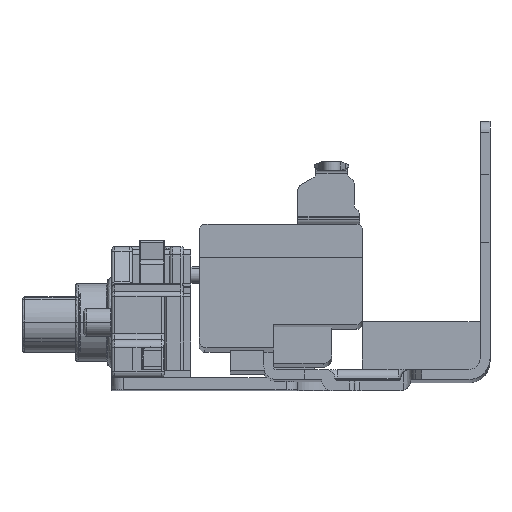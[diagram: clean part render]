
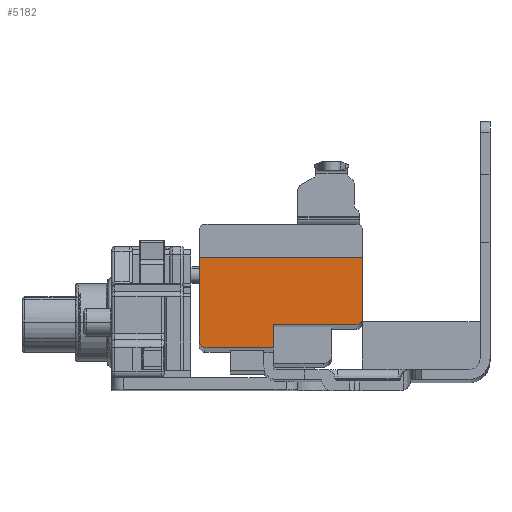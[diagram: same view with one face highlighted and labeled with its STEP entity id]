
A CAD part, top view. The second image highlights one B-rep face of the part: STEP entity #5182.
In plain terms, the highlighted planar face has unit normal (0, 0, 1).
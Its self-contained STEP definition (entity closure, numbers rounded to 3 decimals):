
#144 = CARTESIAN_POINT ( 'NONE',  ( -71.88, 0., 444.3 ) ) ;
#1026 = DIRECTION ( 'NONE',  ( 0., 0., 1. ) ) ;
#1149 = CARTESIAN_POINT ( 'NONE',  ( -42.85, -13., 444.3 ) ) ;
#1223 = EDGE_CURVE ( 'NONE', #2421, #8440, #9088, .T. ) ;
#1732 = CARTESIAN_POINT ( 'NONE',  ( -71.88, -17.1, 444.3 ) ) ;
#2132 = EDGE_CURVE ( 'NONE', #8440, #8012, #4211, .T. ) ;
#2288 = EDGE_CURVE ( 'NONE', #15555, #8012, #12849, .T. ) ;
#2421 = VERTEX_POINT ( 'NONE', #11056 ) ;
#2478 = CARTESIAN_POINT ( 'NONE',  ( -58.68, 0., 444.3 ) ) ;
#2602 = EDGE_CURVE ( 'NONE', #8663, #8378, #4627, .T. ) ;
#3469 = LINE ( 'NONE', #2478, #6801 ) ;
#3482 = CARTESIAN_POINT ( 'NONE',  ( -58.68, -14., 444.3 ) ) ;
#3562 = LINE ( 'NONE', #10614, #10910 ) ;
#3883 = VERTEX_POINT ( 'NONE', #15014 ) ;
#3945 = ORIENTED_EDGE ( 'NONE', *, *, #2288, .F. ) ;
#4211 = LINE ( 'NONE', #144, #11722 ) ;
#4592 = FACE_OUTER_BOUND ( 'NONE', #9671, .T. ) ;
#4627 = CIRCLE ( 'NONE', #10120, 1. ) ;
#5091 = ORIENTED_EDGE ( 'NONE', *, *, #12241, .T. ) ;
#5182 = ADVANCED_FACE ( 'NONE', ( #4592 ), #6691, .T. ) ;
#5824 = ORIENTED_EDGE ( 'NONE', *, *, #11498, .F. ) ;
#6155 = LINE ( 'NONE', #14438, #9481 ) ;
#6691 = PLANE ( 'NONE',  #17134 ) ;
#6763 = DIRECTION ( 'NONE',  ( 0., -1., 0. ) ) ;
#6797 = CARTESIAN_POINT ( 'NONE',  ( -43.85, -13., 444.3 ) ) ;
#6801 = VECTOR ( 'NONE', #6763, 1000. ) ;
#7264 = DIRECTION ( 'NONE',  ( -1., 0., 0. ) ) ;
#7834 = DIRECTION ( 'NONE',  ( 0., 0., -1. ) ) ;
#8012 = VERTEX_POINT ( 'NONE', #1732 ) ;
#8233 = DIRECTION ( 'NONE',  ( -1., 0., 0. ) ) ;
#8378 = VERTEX_POINT ( 'NONE', #17054 ) ;
#8440 = VERTEX_POINT ( 'NONE', #10584 ) ;
#8663 = VERTEX_POINT ( 'NONE', #1149 ) ;
#9088 = LINE ( 'NONE', #17128, #15719 ) ;
#9481 = VECTOR ( 'NONE', #15843, 1000. ) ;
#9530 = CARTESIAN_POINT ( 'NONE',  ( -40.3, 0., 444.3 ) ) ;
#9671 = EDGE_LOOP ( 'NONE', ( #15383, #16623, #3945, #5091, #5824, #10828, #12610, #17783 ) ) ;
#10120 = AXIS2_PLACEMENT_3D ( 'NONE', #6797, #16684, #8233 ) ;
#10584 = CARTESIAN_POINT ( 'NONE',  ( -71.88, -2., 444.3 ) ) ;
#10614 = CARTESIAN_POINT ( 'NONE',  ( -40.3, -14., 444.3 ) ) ;
#10712 = EDGE_CURVE ( 'NONE', #2421, #8663, #6155, .T. ) ;
#10740 = CARTESIAN_POINT ( 'NONE',  ( -40.3, -18.1, 444.3 ) ) ;
#10828 = ORIENTED_EDGE ( 'NONE', *, *, #13080, .F. ) ;
#10880 = VERTEX_POINT ( 'NONE', #3482 ) ;
#10910 = VECTOR ( 'NONE', #16290, 1000. ) ;
#10969 = DIRECTION ( 'NONE',  ( -1., 0., 0. ) ) ;
#11056 = CARTESIAN_POINT ( 'NONE',  ( -42.85, -2., 444.3 ) ) ;
#11348 = VECTOR ( 'NONE', #15001, 1000. ) ;
#11498 = EDGE_CURVE ( 'NONE', #10880, #3883, #3469, .T. ) ;
#11722 = VECTOR ( 'NONE', #14277, 1000. ) ;
#12241 = EDGE_CURVE ( 'NONE', #15555, #3883, #15111, .T. ) ;
#12610 = ORIENTED_EDGE ( 'NONE', *, *, #2602, .F. ) ;
#12849 = CIRCLE ( 'NONE', #13701, 1. ) ;
#13080 = EDGE_CURVE ( 'NONE', #8378, #10880, #3562, .T. ) ;
#13701 = AXIS2_PLACEMENT_3D ( 'NONE', #16293, #7834, #17704 ) ;
#14277 = DIRECTION ( 'NONE',  ( 0., -1., 0. ) ) ;
#14438 = CARTESIAN_POINT ( 'NONE',  ( -42.85, 0., 444.3 ) ) ;
#15001 = DIRECTION ( 'NONE',  ( 1., 0., 0. ) ) ;
#15014 = CARTESIAN_POINT ( 'NONE',  ( -58.68, -18.1, 444.3 ) ) ;
#15111 = LINE ( 'NONE', #10740, #11348 ) ;
#15383 = ORIENTED_EDGE ( 'NONE', *, *, #1223, .T. ) ;
#15489 = CARTESIAN_POINT ( 'NONE',  ( -70.88, -18.1, 444.3 ) ) ;
#15555 = VERTEX_POINT ( 'NONE', #15489 ) ;
#15719 = VECTOR ( 'NONE', #7264, 1000. ) ;
#15843 = DIRECTION ( 'NONE',  ( 0., -1., 0. ) ) ;
#16290 = DIRECTION ( 'NONE',  ( -1., 0., 0. ) ) ;
#16293 = CARTESIAN_POINT ( 'NONE',  ( -70.88, -17.1, 444.3 ) ) ;
#16623 = ORIENTED_EDGE ( 'NONE', *, *, #2132, .T. ) ;
#16684 = DIRECTION ( 'NONE',  ( 0., 0., -1. ) ) ;
#17054 = CARTESIAN_POINT ( 'NONE',  ( -43.85, -14., 444.3 ) ) ;
#17128 = CARTESIAN_POINT ( 'NONE',  ( -40.3, -2., 444.3 ) ) ;
#17134 = AXIS2_PLACEMENT_3D ( 'NONE', #9530, #1026, #10969 ) ;
#17704 = DIRECTION ( 'NONE',  ( -1., 0., 0. ) ) ;
#17783 = ORIENTED_EDGE ( 'NONE', *, *, #10712, .F. ) ;
